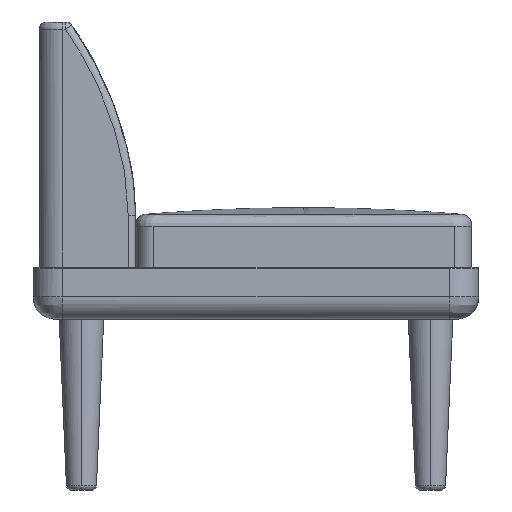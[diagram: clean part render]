
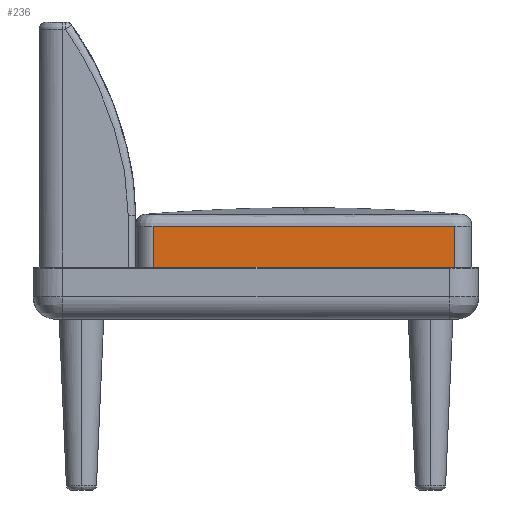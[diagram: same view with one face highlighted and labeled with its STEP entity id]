
A CAD part, left-side view. The second image highlights one B-rep face of the part: STEP entity #236.
In plain terms, the highlighted planar face has unit normal (-1, 0, 0).
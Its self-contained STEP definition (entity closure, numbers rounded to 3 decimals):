
#236=ADVANCED_FACE('',(#429),#2662,.T.);
#429=FACE_OUTER_BOUND('',#623,.T.);
#623=EDGE_LOOP('',(#1378,#1379,#1380,#1381));
#1378=ORIENTED_EDGE('',*,*,#1870,.T.);
#1379=ORIENTED_EDGE('',*,*,#1871,.T.);
#1380=ORIENTED_EDGE('',*,*,#1854,.F.);
#1381=ORIENTED_EDGE('',*,*,#1869,.F.);
#1854=EDGE_CURVE('',#2566,#2567,#2311,.T.);
#1869=EDGE_CURVE('',#2584,#2566,#2319,.T.);
#1870=EDGE_CURVE('',#2584,#2585,#2320,.T.);
#1871=EDGE_CURVE('',#2585,#2567,#2321,.T.);
#2311=(
BOUNDED_CURVE()
B_SPLINE_CURVE(2,(#24614,#24615,#24616),.UNSPECIFIED.,.F.,.F.)
B_SPLINE_CURVE_WITH_KNOTS((3,3),(-1729.34,-1216.578),
 .UNSPECIFIED.)
CURVE()
GEOMETRIC_REPRESENTATION_ITEM()
RATIONAL_B_SPLINE_CURVE((1.,1.,1.))
REPRESENTATION_ITEM('')
);
#2319=(
BOUNDED_CURVE()
B_SPLINE_CURVE(1,(#24910,#24911),.UNSPECIFIED.,.F.,.F.)
B_SPLINE_CURVE_WITH_KNOTS((2,2),(15.,82.),
 .UNSPECIFIED.)
CURVE()
GEOMETRIC_REPRESENTATION_ITEM()
RATIONAL_B_SPLINE_CURVE((1.,1.))
REPRESENTATION_ITEM('')
);
#2320=(
BOUNDED_CURVE()
B_SPLINE_CURVE(2,(#24912,#24913,#24914),.UNSPECIFIED.,.F.,.F.)
B_SPLINE_CURVE_WITH_KNOTS((3,3),(-1729.34,-1216.578),
 .UNSPECIFIED.)
CURVE()
GEOMETRIC_REPRESENTATION_ITEM()
RATIONAL_B_SPLINE_CURVE((1.,1.,1.))
REPRESENTATION_ITEM('')
);
#2321=(
BOUNDED_CURVE()
B_SPLINE_CURVE(1,(#24915,#24916),.UNSPECIFIED.,.F.,.F.)
B_SPLINE_CURVE_WITH_KNOTS((2,2),(15.,82.),
 .UNSPECIFIED.)
CURVE()
GEOMETRIC_REPRESENTATION_ITEM()
RATIONAL_B_SPLINE_CURVE((1.,1.))
REPRESENTATION_ITEM('')
);
#2566=VERTEX_POINT('',#24587);
#2567=VERTEX_POINT('',#24588);
#2584=VERTEX_POINT('',#24605);
#2585=VERTEX_POINT('',#24606);
#2662=PLANE('',#2849);
#2849=AXIS2_PLACEMENT_3D('',#22860,#2911,$);
#2911=DIRECTION('',(-1.,0.,0.));
#22860=CARTESIAN_POINT('',(-910.,33.379,369.973));
#24587=CARTESIAN_POINT('',(-910.,33.379,287.973));
#24588=CARTESIAN_POINT('',(-910.,438.621,287.973));
#24605=CARTESIAN_POINT('',(-910.,33.379,354.973));
#24606=CARTESIAN_POINT('',(-910.,438.621,354.973));
#24614=CARTESIAN_POINT('',(-910.,33.379,287.973));
#24615=CARTESIAN_POINT('',(-910.,236.,287.973));
#24616=CARTESIAN_POINT('',(-910.,438.621,287.973));
#24910=CARTESIAN_POINT('',(-910.,33.379,354.973));
#24911=CARTESIAN_POINT('',(-910.,33.379,287.973));
#24912=CARTESIAN_POINT('',(-910.,33.379,354.973));
#24913=CARTESIAN_POINT('',(-910.,236.,354.973));
#24914=CARTESIAN_POINT('',(-910.,438.621,354.973));
#24915=CARTESIAN_POINT('',(-910.,438.621,354.973));
#24916=CARTESIAN_POINT('',(-910.,438.621,287.973));
